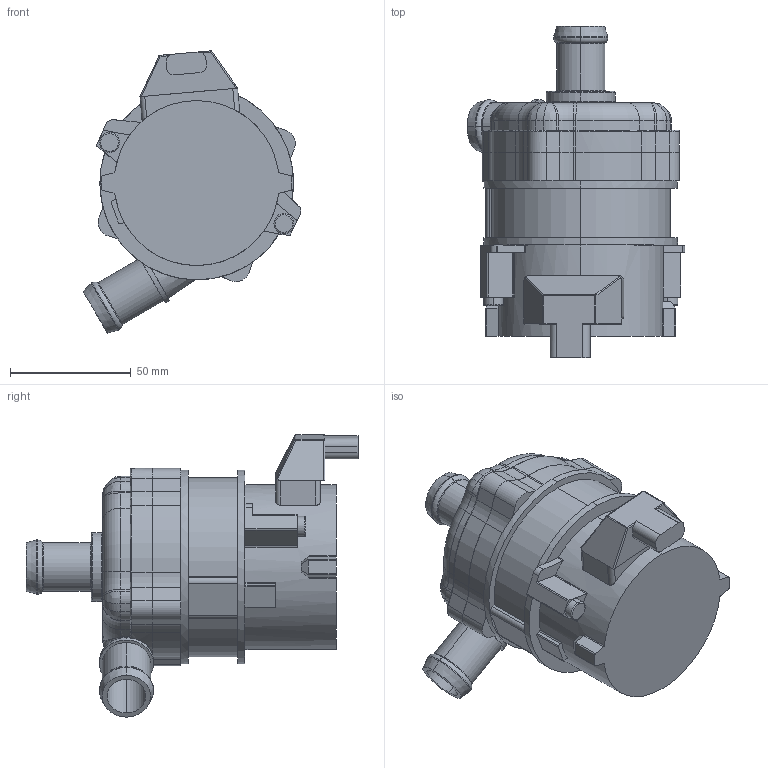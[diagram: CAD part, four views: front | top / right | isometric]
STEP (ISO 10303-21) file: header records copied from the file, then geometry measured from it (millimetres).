
FILE_DESCRIPTION (( 'STEP AP214' ), '1' );
FILE_NAME ('CWA50.STEP', '2018-03-09T23:11:57', ( '' ), ( '' ), 'STEP 2.0', 'Tecomotive 2018', '' );
FILE_SCHEMA (( 'AUTOMOTIVE_DESIGN' ));
Length unit declared in the file: millimetre
Products named in the file (1): CWA50
Bounding box: 89.97 x 137.2 x 116.64 mm (x, y, z)
Volume: 429135.6 mm3; surface area: 46321.4 mm2
Topology: 1 solids, 1 shells, 367 faces, 952 edges, 587 vertices
Faces by surface type: cylinder 177, plane 107, torus 54, bspline 18, cone 7, sphere 4
Entity records: 15178 total; most frequent: CARTESIAN_POINT 3621, DIRECTION 2016, ORIENTED_EDGE 1884, EDGE_CURVE 942, AXIS2_PLACEMENT_3D 806, VERTEX_POINT 587, CIRCLE 456, VECTOR 404
